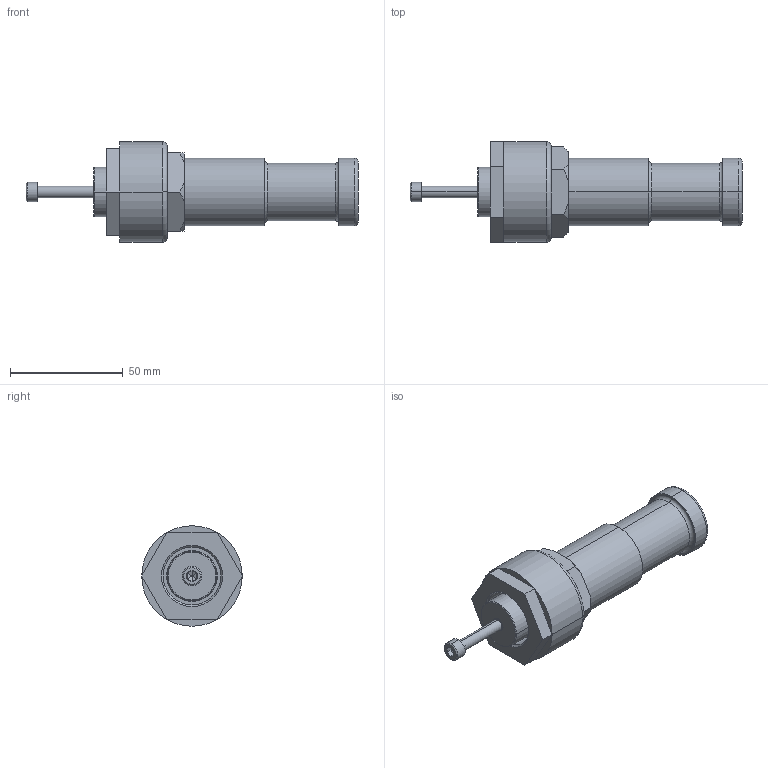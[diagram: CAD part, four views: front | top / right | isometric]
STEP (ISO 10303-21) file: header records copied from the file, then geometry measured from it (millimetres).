
FILE_DESCRIPTION((''),'2;1');
FILE_NAME('1182263_ASM','2022-08-31T10:26:11',('ucb91171'),(''),'CREO PARAMETRIC BY PTC INC, 2019292','CREO PARAMETRIC BY PTC INC, 2019292','');
FILE_SCHEMA(('CONFIG_CONTROL_DESIGN'));
Length unit declared in the file: millimetre
Products named in the file (6): 1182259; 1182262; 1182261; 1182260; SHS_M05_X_25_ST; 1182263_ASM
Assembly tree (5 placements, depth 2):
  1182263_ASM
    1182259
    1182262
    1182261
    1182260
    SHS_M05_X_25_ST
Bounding box: 147 x 44.5 x 44.5 mm (x, y, z)
Volume: 55954.1 mm3; surface area: 43898.8 mm2
Topology: 5 solids, 9 shells, 161 faces, 342 edges, 207 vertices
Faces by surface type: plane 63, cylinder 58, cone 24, torus 16
Entity records: 4609 total; most frequent: CARTESIAN_POINT 883, DIRECTION 844, ORIENTED_EDGE 666, AXIS2_PLACEMENT_3D 354, EDGE_CURVE 340, VERTEX_POINT 207, EDGE_LOOP 182, CIRCLE 174
